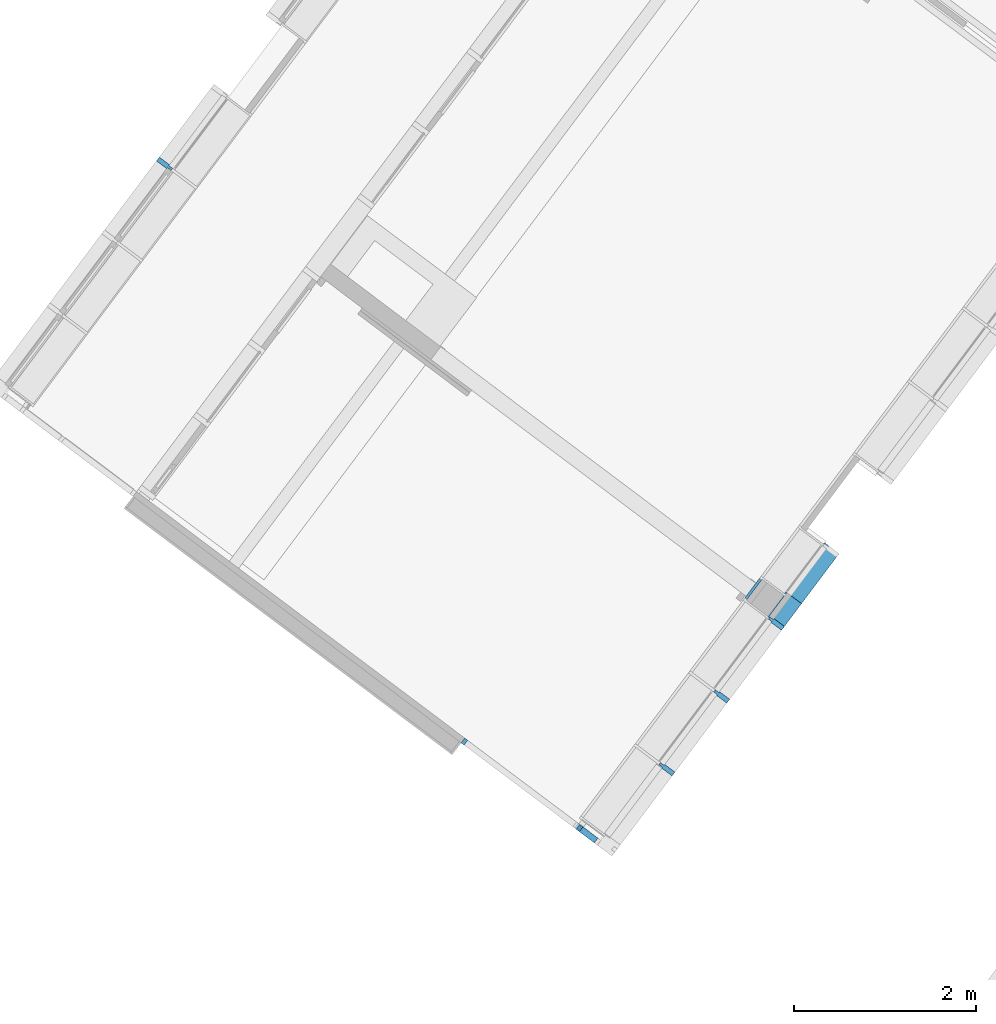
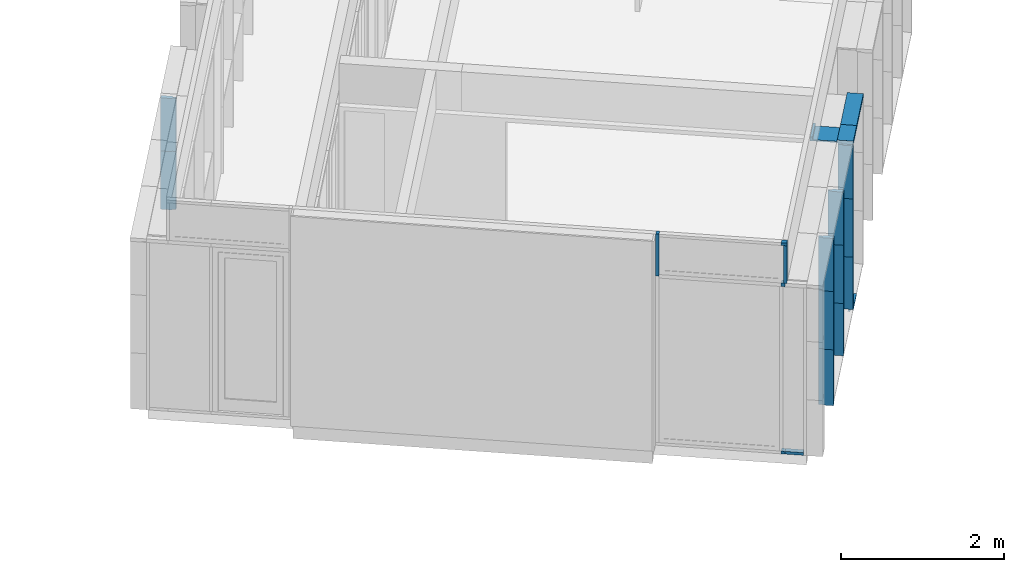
# One storey, part 77 of 243: 21 members, 4 elements without a shape of their own.
"""IFC2X3 building model written with IfcOpenShell, lengths in metres."""

from ifc_helpers import new_model, entity, si_unit, converted_unit, derived_unit, direction, frame, frame_2d, origin, origin_2d_with_axis, place, context, subcontext, project, spatial, polyline, circle_curve, parameter, trimmed, segment, composite_curve, rectangle, outline, extrude, source, transform, mapped, material, type_object, type_shapes, element, aggregate, save


model = new_model("IFC2X3")

# Units and contexts
model_context = context("Model", 3, precision=1e-05, world=origin(), true_north=direction((6.123031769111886e-17, 1.0)))
body_context = subcontext(model_context, "Body", "Model", "MODEL_VIEW")
ifc_project = project(units=[si_unit("LENGTHUNIT", "METRE"), si_unit("AREAUNIT", "SQUARE_METRE"), si_unit("VOLUMEUNIT", "CUBIC_METRE"), converted_unit("PLANEANGLEUNIT", "DEGREE", entity("IfcRatioMeasure", 0.017453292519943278), si_unit("PLANEANGLEUNIT", "RADIAN"), dimensions=[0, 0, 0, 0, 0, 0, 0]), si_unit("MASSUNIT", "GRAM", prefix="KILO"), derived_unit("MASSDENSITYUNIT", [(si_unit("MASSUNIT", "GRAM", prefix="KILO"), 1), (si_unit("LENGTHUNIT", "METRE"), -3)]), derived_unit("IONCONCENTRATIONUNIT", [(si_unit("MASSUNIT", "GRAM", prefix="KILO"), 1), (si_unit("LENGTHUNIT", "METRE"), -3)]), derived_unit("MOMENTOFINERTIAUNIT", [(si_unit("LENGTHUNIT", "METRE"), 4)]), si_unit("TIMEUNIT", "SECOND"), si_unit("FREQUENCYUNIT", "HERTZ"), si_unit("THERMODYNAMICTEMPERATUREUNIT", "DEGREE_CELSIUS"), derived_unit("THERMALTRANSMITTANCEUNIT", [(si_unit("MASSUNIT", "GRAM", prefix="KILO"), 1), (si_unit("THERMODYNAMICTEMPERATUREUNIT", "KELVIN"), -1), (si_unit("TIMEUNIT", "SECOND"), -3)]), derived_unit("THERMALCONDUCTANCEUNIT", [(si_unit("MASSUNIT", "GRAM", prefix="KILO"), 1), (si_unit("THERMODYNAMICTEMPERATUREUNIT", "KELVIN"), -1), (si_unit("TIMEUNIT", "SECOND"), -3), (si_unit("LENGTHUNIT", "METRE"), 1)]), derived_unit("VOLUMETRICFLOWRATEUNIT", [(si_unit("LENGTHUNIT", "METRE"), 3), (si_unit("TIMEUNIT", "SECOND"), -1)]), derived_unit("MASSFLOWRATEUNIT", [(si_unit("MASSUNIT", "GRAM", prefix="KILO"), 1), (si_unit("TIMEUNIT", "SECOND"), -1)]), derived_unit("ROTATIONALFREQUENCYUNIT", [(si_unit("TIMEUNIT", "SECOND"), -1)]), si_unit("ELECTRICCURRENTUNIT", "AMPERE"), si_unit("ELECTRICVOLTAGEUNIT", "VOLT"), si_unit("POWERUNIT", "WATT"), si_unit("FORCEUNIT", "NEWTON", prefix="KILO"), si_unit("ILLUMINANCEUNIT", "LUX"), si_unit("LUMINOUSFLUXUNIT", "LUMEN"), si_unit("LUMINOUSINTENSITYUNIT", "CANDELA"), derived_unit("USERDEFINED", [(si_unit("MASSUNIT", "GRAM", prefix="KILO"), -1), (si_unit("LENGTHUNIT", "METRE"), -2), (si_unit("TIMEUNIT", "SECOND"), 3), (si_unit("LUMINOUSFLUXUNIT", "LUMEN"), 1)]), derived_unit("USERDEFINED", [(si_unit("MASSUNIT", "GRAM", prefix="KILO"), 1), (si_unit("TIMEUNIT", "SECOND"), -3), (si_unit("LENGTHUNIT", "METRE"), 3), (si_unit("ELECTRICCURRENTUNIT", "AMPERE"), -2)]), derived_unit("SOUNDPOWERUNIT", [(si_unit("MASSUNIT", "GRAM", prefix="KILO"), 1), (si_unit("TIMEUNIT", "SECOND"), -3), (si_unit("LENGTHUNIT", "METRE"), 2)]), derived_unit("SOUNDPRESSUREUNIT", [(si_unit("MASSUNIT", "GRAM", prefix="KILO"), 1), (si_unit("LENGTHUNIT", "METRE"), -1), (si_unit("TIMEUNIT", "SECOND"), -2)]), derived_unit("LINEARVELOCITYUNIT", [(si_unit("LENGTHUNIT", "METRE"), 1), (si_unit("TIMEUNIT", "SECOND"), -1)]), si_unit("PRESSUREUNIT", "PASCAL"), derived_unit("USERDEFINED", [(si_unit("MASSUNIT", "GRAM", prefix="KILO"), 1), (si_unit("LENGTHUNIT", "METRE"), -2), (si_unit("TIMEUNIT", "SECOND"), -2)]), derived_unit("LINEARFORCEUNIT", [(si_unit("MASSUNIT", "GRAM", prefix="KILO"), 1), (si_unit("TIMEUNIT", "SECOND"), -2)]), derived_unit("PLANARFORCEUNIT", [(si_unit("MASSUNIT", "GRAM", prefix="KILO"), 1), (si_unit("LENGTHUNIT", "METRE"), -1), (si_unit("TIMEUNIT", "SECOND"), -2)]), derived_unit("SPECIFICHEATCAPACITYUNIT", [(si_unit("THERMODYNAMICTEMPERATUREUNIT", "KELVIN"), -1), (si_unit("LENGTHUNIT", "METRE"), 2), (si_unit("TIMEUNIT", "SECOND"), -2)]), derived_unit("HEATINGVALUEUNIT", [(si_unit("LENGTHUNIT", "METRE"), 2), (si_unit("TIMEUNIT", "SECOND"), -2)]), derived_unit("VAPORPERMEABILITYUNIT", [(si_unit("LENGTHUNIT", "METRE"), -1), (si_unit("TIMEUNIT", "SECOND"), 1)]), derived_unit("DYNAMICVISCOSITYUNIT", [(si_unit("MASSUNIT", "GRAM", prefix="KILO"), 1), (si_unit("TIMEUNIT", "SECOND"), -1), (si_unit("LENGTHUNIT", "METRE"), -1)]), derived_unit("THERMALEXPANSIONCOEFFICIENTUNIT", [(si_unit("THERMODYNAMICTEMPERATUREUNIT", "KELVIN"), -1)]), derived_unit("MODULUSOFELASTICITYUNIT", [(si_unit("MASSUNIT", "GRAM", prefix="KILO"), 1), (si_unit("LENGTHUNIT", "METRE"), -1), (si_unit("TIMEUNIT", "SECOND"), -2)]), derived_unit("ISOTHERMALMOISTURECAPACITYUNIT", [(si_unit("LENGTHUNIT", "METRE"), 3), (si_unit("MASSUNIT", "GRAM", prefix="KILO"), -1)]), derived_unit("MOISTUREDIFFUSIVITYUNIT", [(si_unit("TIMEUNIT", "SECOND"), -1), (si_unit("LENGTHUNIT", "METRE"), 2)])], contexts=[model_context])

# Site, building, storey
site_placement = place(None, frame((0.0, 0.0, 235.0), z_axis=(0.0, 0.0, 1.0), x_axis=(-0.7996477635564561, 0.6004693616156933, 0.0)))
site = spatial("IfcSite", under=ifc_project, at=site_placement, Name="Default", CompositionType="ELEMENT")
building_placement = place(site_placement, origin())
building = spatial("IfcBuilding", under=site, at=building_placement, CompositionType="ELEMENT")
storey_placement = place(building_placement, origin())
storey = spatial("IfcBuildingStorey", under=building, at=storey_placement, Name="P0- Escola", CompositionType="ELEMENT", Elevation=0.0)

# Curtain wall, members
curtain_wall_type_1 = type_object("IfcCurtainWallType", Name="Muro cortina:MC- EXT- MC2", PredefinedType="NOTDEFINED")
curtain_wall_1_placement = place(storey_placement, origin())
curtain_wall_1 = element("IfcCurtainWall", 1, at=curtain_wall_1_placement, inside=storey, type_object=curtain_wall_type_1, Name="Muro cortina:MC- EXT- MC2", ObjectType="Muro cortina:MC- EXT- MC2")
ifc_material_1 = material(Name="_Alumini- T1- Perfil")
member_type_1 = type_object("IfcMemberType", Name="Montante rectangular:MC- Alu- 140x52,5 cm- Fa patis- Centre", PredefinedType="MULLION", material=ifc_material_1)
shared_shape_1 = source(origin(), body_context, "Body", "SweptSolid", [
    extrude(outline(polyline([(-0.11699999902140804, -0.026250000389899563), (0.021999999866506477, -0.026250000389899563), (0.021999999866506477, -0.01500000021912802), (0.07299999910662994, -0.01500000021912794), (0.07299999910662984, 0.015000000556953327), (0.02200000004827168, 0.015000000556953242), (0.02200000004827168, 0.026250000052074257), (-0.11699999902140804, 0.026250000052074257), (-0.11699999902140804, -0.026250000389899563)])), frame((0.0, 0.022999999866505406, -0.8400000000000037), z_axis=(0.0, 0.0, 1.0), x_axis=(0.0, -1.0, 0.0)), (0.0, 0.0, 1.0), 0.8400000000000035),
])
type_shapes(member_type_1, [shared_shape_1])
member_1_placement = place(curtain_wall_1_placement, frame((41.04514768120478, -21.41519175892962, -0.02), z_axis=(0.0, 0.0, -1.0), x_axis=(0.0, -1.0, 0.0)))
member_1 = element("IfcMember", 2, at=member_1_placement, type_object=member_type_1, material=ifc_material_1, Name="Montante rectangular:MC- Alu- 140x52,5 cm- Fa patis- Centre", ObjectType="Montante rectangular:MC- Alu- 140x52,5 cm- Fa patis- Centre", context=body_context, shape_type="MappedRepresentation", body=[
    mapped(shared_shape_1, transform((0.0, 0.0, 0.0), scale=1.0)),
])
member_type_2 = type_object("IfcMemberType", Name="Montante rectangular:MC- Alu- 140x52,5 cm- Fa patis- Centre", PredefinedType="MULLION", material=ifc_material_1)
shared_shape_2 = source(origin(), body_context, "Body", "SweptSolid", [
    extrude(outline(polyline([(-0.11699999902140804, -0.026250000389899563), (0.021999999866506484, -0.026250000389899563), (0.021999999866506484, -0.01500000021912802), (0.07299999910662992, -0.01500000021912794), (0.07299999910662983, 0.015000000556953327), (0.022000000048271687, 0.015000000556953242), (0.022000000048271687, 0.026250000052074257), (-0.11699999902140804, 0.026250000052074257), (-0.11699999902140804, -0.026250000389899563)])), frame((0.0, 0.022999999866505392, -0.7850000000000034), z_axis=(0.0, 0.0, 1.0), x_axis=(0.0, -1.0, 0.0)), (0.0, 0.0, 1.0), 0.7850000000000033),
])
type_shapes(member_type_2, [shared_shape_2])
member_2_placement = place(curtain_wall_1_placement, frame((41.04514768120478, -22.41519175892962, 0.035000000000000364), z_axis=(0.0, 0.0, -1.0), x_axis=(0.0, -1.0, 0.0)))
member_2 = element("IfcMember", 3, at=member_2_placement, type_object=member_type_2, material=ifc_material_1, Name="Montante rectangular:MC- Alu- 140x52,5 cm- Fa patis- Centre", ObjectType="Montante rectangular:MC- Alu- 140x52,5 cm- Fa patis- Centre", context=body_context, shape_type="MappedRepresentation", body=[
    mapped(shared_shape_2, transform((0.0, 0.0, 0.0), scale=1.0)),
])
member_3_placement = place(curtain_wall_1_placement, frame((41.045147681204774, -23.415191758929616, 0.035000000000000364), z_axis=(0.0, 0.0, -1.0), x_axis=(0.0, -1.0, 0.0)))
member_3 = element("IfcMember", 4, at=member_3_placement, type_object=member_type_2, material=ifc_material_1, Name="Montante rectangular:MC- Alu- 140x52,5 cm- Fa patis- Centre", ObjectType="Montante rectangular:MC- Alu- 140x52,5 cm- Fa patis- Centre", context=body_context, shape_type="MappedRepresentation", body=[
    mapped(shared_shape_2, transform((0.0, 0.0, 0.0), scale=1.0)),
])
member_type_3 = type_object("IfcMemberType", Name="Montante rectangular:MC- Alu- 140x52,5 cm- Fa patis- Centre", PredefinedType="MULLION", material=ifc_material_1)
shared_shape_3 = source(origin(), body_context, "Body", "SweptSolid", [
    extrude(outline(polyline([(-0.11699999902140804, -0.026250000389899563), (0.021999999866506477, -0.026250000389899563), (0.021999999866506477, -0.01500000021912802), (0.07299999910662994, -0.01500000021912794), (0.07299999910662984, 0.015000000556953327), (0.02200000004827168, 0.015000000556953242), (0.02200000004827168, 0.026250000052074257), (-0.11699999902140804, 0.026250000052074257), (-0.11699999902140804, -0.026250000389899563)])), frame((0.0, 0.022999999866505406, -0.8750000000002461), z_axis=(0.0, 0.0, 1.0), x_axis=(0.0, -1.0, 0.0)), (0.0, 0.0, 1.0), 0.8750000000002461),
])
type_shapes(member_type_3, [shared_shape_3])
member_4_placement = place(curtain_wall_1_placement, frame((41.04514768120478, -21.41519175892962, 0.8200000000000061), z_axis=(0.0, 0.0, -1.0), x_axis=(0.0, -1.0, 0.0)))
member_4 = element("IfcMember", 5, at=member_4_placement, type_object=member_type_3, material=ifc_material_1, Name="Montante rectangular:MC- Alu- 140x52,5 cm- Fa patis- Centre", ObjectType="Montante rectangular:MC- Alu- 140x52,5 cm- Fa patis- Centre", context=body_context, shape_type="MappedRepresentation", body=[
    mapped(shared_shape_3, transform((0.0, 0.0, 0.0), scale=1.0)),
])
member_5_placement = place(curtain_wall_1_placement, frame((41.04514768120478, -22.41519175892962, 0.8200000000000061), z_axis=(0.0, 0.0, -1.0), x_axis=(0.0, -1.0, 0.0)))
member_5 = element("IfcMember", 6, at=member_5_placement, type_object=member_type_3, material=ifc_material_1, Name="Montante rectangular:MC- Alu- 140x52,5 cm- Fa patis- Centre", ObjectType="Montante rectangular:MC- Alu- 140x52,5 cm- Fa patis- Centre", context=body_context, shape_type="MappedRepresentation", body=[
    mapped(shared_shape_3, transform((0.0, 0.0, 0.0), scale=1.0)),
])
member_6_placement = place(curtain_wall_1_placement, frame((41.045147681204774, -23.415191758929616, 0.8200000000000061), z_axis=(0.0, 0.0, -1.0), x_axis=(0.0, -1.0, 0.0)))
member_6 = element("IfcMember", 7, at=member_6_placement, type_object=member_type_3, material=ifc_material_1, Name="Montante rectangular:MC- Alu- 140x52,5 cm- Fa patis- Centre", ObjectType="Montante rectangular:MC- Alu- 140x52,5 cm- Fa patis- Centre", context=body_context, shape_type="MappedRepresentation", body=[
    mapped(shared_shape_3, transform((0.0, 0.0, 0.0), scale=1.0)),
])

# Curtain wall, member
curtain_wall_type_2 = type_object("IfcCurtainWallType", Name="Muro cortina:MC- INT- k7- Aules infantil", PredefinedType="NOTDEFINED")
curtain_wall_2_placement = place(storey_placement, origin())
curtain_wall_2 = element("IfcCurtainWall", 8, at=curtain_wall_2_placement, inside=storey, type_object=curtain_wall_type_2, Name="Muro cortina:MC- INT- k7- Aules infantil", ObjectType="Muro cortina:MC- INT- k7- Aules infantil")
ifc_material_2 = material(Name="_Fusta massisa- T1")
member_type_4 = type_object("IfcMemberType", Name="Montante rectangular:MC- Fusta- 35x3 cm- Pati aules- Remat superior", PredefinedType="MULLION", material=ifc_material_2)
shared_shape_4 = source(origin(), body_context, "Body", "SweptSolid", [
    extrude(outline(polyline([(-0.21333333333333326, -0.02666666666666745), (0.1216666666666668, -0.02666666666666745), (0.12166666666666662, 0.03333333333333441), (0.09166666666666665, 0.03333333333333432), (0.09166666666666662, -0.006666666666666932), (-0.2133333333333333, -0.006666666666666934), (-0.21333333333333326, -0.02666666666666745)])), frame((-0.033333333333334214, 0.026666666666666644, -0.3000000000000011), z_axis=(0.0, 0.0, 1.0), x_axis=(0.0, -1.0, 0.0)), (0.0, 0.0, 1.0), 0.3000000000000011),
])
type_shapes(member_type_4, [shared_shape_4])
member_7_placement = place(curtain_wall_2_placement, frame((41.34514768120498, -23.715191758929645, 2.565), z_axis=(0.0, -1.0, 0.0), x_axis=(0.0, 0.0, 1.0)))
member_7 = element("IfcMember", 9, at=member_7_placement, type_object=member_type_4, material=ifc_material_2, Name="Montante rectangular:MC- Fusta- 35x3 cm- Pati aules- Remat superior", ObjectType="Montante rectangular:MC- Fusta- 35x3 cm- Pati aules- Remat superior", context=body_context, shape_type="MappedRepresentation", body=[
    mapped(shared_shape_4, transform((0.0, 0.0, 0.0), scale=1.0)),
])
aggregate(curtain_wall_2, [member_7])

# Member
member_type_5 = type_object("IfcMemberType", Name="Montante rectangular:MC- Alu- 140x52,5 cm- Fa patis- inferior", PredefinedType="MULLION", material=ifc_material_1)
shared_shape_5 = source(origin(), body_context, "Body", "SweptSolid", [
    extrude(outline(composite_curve([segment(polyline([(0.1278672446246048, -0.025867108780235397), (0.14416724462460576, -0.0258671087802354)]), True, "CONTINUOUS"), segment(polyline([(0.14416724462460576, -0.0258671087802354), (0.1441672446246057, 0.009132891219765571)]), True, "CONTINUOUS"), segment(polyline([(0.1441672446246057, 0.009132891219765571), (0.06786724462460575, 0.009132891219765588)]), True, "CONTINUOUS"), segment(polyline([(0.06786724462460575, 0.009132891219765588), (0.06786724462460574, -0.021159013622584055)]), True, "CONTINUOUS"), segment(polyline([(0.06786724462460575, -0.021159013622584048), (-0.030132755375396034, -0.012332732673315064)]), True, "CONTINUOUS"), segment(polyline([(-0.03013275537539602, -0.012332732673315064), (-0.030132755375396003, 0.027132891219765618)]), True, "CONTINUOUS"), segment(polyline([(-0.030132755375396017, 0.027132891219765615), (-0.0021327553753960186, 0.027132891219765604)]), True, "CONTINUOUS"), segment(polyline([(-0.0021327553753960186, 0.027132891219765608), (-0.0021327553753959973, 0.0291328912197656)]), True, "CONTINUOUS"), segment(polyline([(-0.0021327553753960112, 0.0291328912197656), (-0.032132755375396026, 0.02913289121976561)]), True, "CONTINUOUS"), segment(polyline([(-0.032132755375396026, 0.02913289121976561), (-0.03213275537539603, -0.012152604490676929)]), True, "CONTINUOUS"), segment(polyline([(-0.03213275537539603, -0.012152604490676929), (-0.0701327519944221, -0.008730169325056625)]), True, "CONTINUOUS"), segment(polyline([(-0.0701327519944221, -0.008730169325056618), (-0.0701327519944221, 0.0057663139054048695)]), True, "CONTINUOUS"), segment(trimmed(circle_curve(frame_2d((-0.0696327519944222, 0.005766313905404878), x_axis=(-1.0, 0.0)), 0.0004999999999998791), [parameter(269.999999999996)], [parameter(0.0)], True, "PARAMETER"), False, "CONTINUOUS"), segment(polyline([(-0.0696327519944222, 0.006266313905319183), (-0.06213275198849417, 0.00626631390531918)]), True, "CONTINUOUS"), segment(polyline([(-0.06213275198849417, 0.00626631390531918), (-0.06213275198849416, 0.008266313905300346)]), True, "CONTINUOUS"), segment(polyline([(-0.06213275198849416, 0.008266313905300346), (-0.07013275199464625, 0.008266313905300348)]), True, "CONTINUOUS"), segment(trimmed(circle_curve(frame_2d((-0.07013275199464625, 0.0062663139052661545), x_axis=(0.0, 1.0)), 0.0020000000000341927), [parameter(0.0)], [parameter(90.00000002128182)], True, "PARAMETER"), True, "CONTINUOUS"), segment(polyline([(-0.07213275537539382, 0.006266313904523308), (-0.07213275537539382, -0.008730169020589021)]), True, "CONTINUOUS"), segment(trimmed(circle_curve(frame_2d((-0.07013275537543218, -0.008730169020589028), x_axis=(-1.0, 0.0)), 0.001999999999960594), [parameter(0.0)], [parameter(84.85359280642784)], True, "PARAMETER"), True, "CONTINUOUS"), segment(polyline([(-0.07031215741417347, -0.010722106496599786), (0.06786724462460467, -0.02316710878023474)]), True, "CONTINUOUS"), segment(polyline([(0.06786724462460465, -0.023167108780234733), (0.12786724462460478, -0.02316710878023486)]), True, "CONTINUOUS"), segment(polyline([(0.12786724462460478, -0.02316710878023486), (0.1278672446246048, -0.025867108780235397)]), True, "CONTINUOUS")], self_intersect=False)), frame((-0.02913289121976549, 0.06786724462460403, -0.3391263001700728), z_axis=(0.0, 0.0, 1.0), x_axis=(0.0, -1.0, 0.0)), (0.0, 0.0, 1.0), 0.3391263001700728),
])
type_shapes(member_type_5, [shared_shape_5])
member_8_placement = place(curtain_wall_1_placement, frame((41.045147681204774, -23.415191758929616, -0.02), z_axis=(0.0, 1.0, 0.0), x_axis=(0.0, 0.0, -1.0)))
member_8 = element("IfcMember", 10, at=member_8_placement, type_object=member_type_5, material=ifc_material_1, Name="Montante rectangular:MC- Alu- 140x52,5 cm- Fa patis- inferior", ObjectType="Montante rectangular:MC- Alu- 140x52,5 cm- Fa patis- inferior", context=body_context, shape_type="MappedRepresentation", body=[
    mapped(shared_shape_5, transform((0.0, 0.0, 0.0), scale=1.0)),
])

member_type_6 = type_object("IfcMemberType", Name="Montante rectangular:MC- Alu- 140x52,5 cm- Fa patis- Superior", PredefinedType="MULLION", material=ifc_material_1)
shared_shape_6 = source(origin(), body_context, "Body", "SweptSolid", [
    extrude(outline(polyline([(-0.11366666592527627, -0.021249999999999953), (0.02633333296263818, -0.021249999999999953), (0.02633333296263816, -0.010000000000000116), (0.08733333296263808, -0.010000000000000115), (0.08733333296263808, 0.03125000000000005), (-0.11366666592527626, 0.031250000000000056), (-0.11366666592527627, -0.021249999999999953)])), frame((-0.031250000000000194, 0.027333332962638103, -0.6871237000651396), z_axis=(0.0, 0.0, 1.0), x_axis=(0.0, -1.0, 0.0)), (0.0, 0.0, 1.0), 0.6871237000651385),
])
type_shapes(member_type_6, [shared_shape_6])
member_9_placement = place(curtain_wall_1_placement, frame((41.045147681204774, -24.441441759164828, 2.545), z_axis=(0.0, -1.0, 0.0), x_axis=(0.0, 0.0, 1.0)))
member_9 = element("IfcMember", 11, at=member_9_placement, type_object=member_type_6, material=ifc_material_1, Name="Montante rectangular:MC- Alu- 140x52,5 cm- Fa patis- Superior", ObjectType="Montante rectangular:MC- Alu- 140x52,5 cm- Fa patis- Superior", context=body_context, shape_type="MappedRepresentation", body=[
    mapped(shared_shape_6, transform((0.0, 0.0, 0.0), scale=1.0)),
])

member_type_7 = type_object("IfcMemberType", Name="Montante rectangular:MC- Alu- 140x52,5 cm- Fa patis- Superior", PredefinedType="MULLION", material=ifc_material_1)
shared_shape_7 = source(origin(), body_context, "Body", "SweptSolid", [
    extrude(outline(polyline([(-0.11366666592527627, -0.021249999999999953), (0.02633333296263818, -0.021249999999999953), (0.02633333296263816, -0.010000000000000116), (0.08733333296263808, -0.010000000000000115), (0.08733333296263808, 0.03125000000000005), (-0.11366666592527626, 0.031250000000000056), (-0.11366666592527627, -0.021249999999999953)])), frame((-0.031250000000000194, 0.027333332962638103, -0.3391263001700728), z_axis=(0.0, 0.0, 1.0), x_axis=(0.0, -1.0, 0.0)), (0.0, 0.0, 1.0), 0.3391263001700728),
])
type_shapes(member_type_7, [shared_shape_7])
member_10_placement = place(curtain_wall_1_placement, frame((41.045147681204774, -23.75431805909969, 2.545), z_axis=(0.0, -1.0, 0.0), x_axis=(0.0, 0.0, 1.0)))
member_10 = element("IfcMember", 12, at=member_10_placement, type_object=member_type_7, material=ifc_material_1, Name="Montante rectangular:MC- Alu- 140x52,5 cm- Fa patis- Superior", ObjectType="Montante rectangular:MC- Alu- 140x52,5 cm- Fa patis- Superior", context=body_context, shape_type="MappedRepresentation", body=[
    mapped(shared_shape_7, transform((0.0, 0.0, 0.0), scale=1.0)),
])

member_type_8 = type_object("IfcMemberType", Name="Montante rectangular:MC- Alu- 140x52,5 cm- Fa patis- Centre", PredefinedType="MULLION", material=ifc_material_1)
shared_shape_8 = source(origin(), body_context, "Body", "SweptSolid", [
    extrude(outline(polyline([(-0.11699999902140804, -0.026250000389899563), (0.021999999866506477, -0.026250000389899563), (0.021999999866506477, -0.01500000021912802), (0.07299999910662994, -0.01500000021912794), (0.07299999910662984, 0.015000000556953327), (0.02200000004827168, 0.015000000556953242), (0.02200000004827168, 0.026250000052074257), (-0.11699999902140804, 0.026250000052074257), (-0.11699999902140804, -0.026250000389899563)])), frame((0.0, 0.022999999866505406, -0.79749999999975), z_axis=(0.0, 0.0, 1.0), x_axis=(0.0, -1.0, 0.0)), (0.0, 0.0, 1.0), 0.79749999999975),
])
type_shapes(member_type_8, [shared_shape_8])
member_11_placement = place(curtain_wall_1_placement, frame((41.04514768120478, -21.41519175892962, 1.6950000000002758), z_axis=(0.0, 0.0, -1.0), x_axis=(0.0, -1.0, 0.0)))
member_11 = element("IfcMember", 13, at=member_11_placement, type_object=member_type_8, material=ifc_material_1, Name="Montante rectangular:MC- Alu- 140x52,5 cm- Fa patis- Centre", ObjectType="Montante rectangular:MC- Alu- 140x52,5 cm- Fa patis- Centre", context=body_context, shape_type="MappedRepresentation", body=[
    mapped(shared_shape_8, transform((0.0, 0.0, 0.0), scale=1.0)),
])

member_12_placement = place(curtain_wall_1_placement, frame((41.04514768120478, -22.41519175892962, 1.6950000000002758), z_axis=(0.0, 0.0, -1.0), x_axis=(0.0, -1.0, 0.0)))
member_12 = element("IfcMember", 14, at=member_12_placement, type_object=member_type_8, material=ifc_material_1, Name="Montante rectangular:MC- Alu- 140x52,5 cm- Fa patis- Centre", ObjectType="Montante rectangular:MC- Alu- 140x52,5 cm- Fa patis- Centre", context=body_context, shape_type="MappedRepresentation", body=[
    mapped(shared_shape_8, transform((0.0, 0.0, 0.0), scale=1.0)),
])

member_13_placement = place(curtain_wall_1_placement, frame((41.045147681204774, -23.415191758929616, 1.6950000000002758), z_axis=(0.0, 0.0, -1.0), x_axis=(0.0, -1.0, 0.0)))
member_13 = element("IfcMember", 15, at=member_13_placement, type_object=member_type_8, material=ifc_material_1, Name="Montante rectangular:MC- Alu- 140x52,5 cm- Fa patis- Centre", ObjectType="Montante rectangular:MC- Alu- 140x52,5 cm- Fa patis- Centre", context=body_context, shape_type="MappedRepresentation", body=[
    mapped(shared_shape_8, transform((0.0, 0.0, 0.0), scale=1.0)),
])

aggregate(curtain_wall_1, [member_1, member_2, member_8, member_3, member_9, member_10, member_4, member_5, member_6, member_11, member_12, member_13])

# Curtain wall, members
curtain_wall_type_3 = type_object("IfcCurtainWallType", Name="Muro cortina:MC- EXT- MC5", PredefinedType="NOTDEFINED")
curtain_wall_3_placement = place(storey_placement, origin())
curtain_wall_3 = element("IfcCurtainWall", 16, at=curtain_wall_3_placement, inside=storey, type_object=curtain_wall_type_3, Name="Muro cortina:MC- EXT- MC5", ObjectType="Muro cortina:MC- EXT- MC5")
member_type_9 = type_object("IfcMemberType", Name="Montante rectangular:MC- Alu- 140x52,5 cm- Fa patis- Centre", PredefinedType="MULLION", material=ifc_material_1)
shared_shape_9 = source(origin(), body_context, "Body", "SweptSolid", [
    extrude(outline(polyline([(-0.021999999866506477, -0.026250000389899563), (0.11699999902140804, -0.026250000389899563), (0.11699999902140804, 0.026250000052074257), (-0.02200000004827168, 0.026250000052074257), (-0.02200000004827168, 0.015000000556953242), (-0.07299999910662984, 0.015000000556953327), (-0.07299999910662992, -0.01500000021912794), (-0.021999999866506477, -0.01500000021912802), (-0.021999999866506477, -0.026250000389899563)])), frame((0.0, -0.022999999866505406, -0.8750000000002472), z_axis=(0.0, 0.0, 1.0), x_axis=(0.0, -1.0, 0.0)), (0.0, 0.0, 1.0), 0.8750000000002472),
])
type_shapes(member_type_9, [shared_shape_9])
member_14_placement = place(curtain_wall_3_placement, frame((49.345147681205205, -23.415191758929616, 0.8200000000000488), z_axis=(0.0, 0.0, -1.0), x_axis=(0.0, -1.0, 0.0)))
member_14 = element("IfcMember", 17, at=member_14_placement, type_object=member_type_9, material=ifc_material_1, Name="Montante rectangular:MC- Alu- 140x52,5 cm- Fa patis- Centre", ObjectType="Montante rectangular:MC- Alu- 140x52,5 cm- Fa patis- Centre", context=body_context, shape_type="MappedRepresentation", body=[
    mapped(shared_shape_9, transform((0.0, 0.0, 0.0), scale=1.0)),
])
member_type_10 = type_object("IfcMemberType", Name="Montante rectangular:MC- Alu- 140x52,5 cm- Fa patis- Centre", PredefinedType="MULLION", material=ifc_material_1)
shared_shape_10 = source(origin(), body_context, "Body", "SweptSolid", [
    extrude(outline(polyline([(-0.021999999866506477, -0.026250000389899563), (0.11699999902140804, -0.026250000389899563), (0.11699999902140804, 0.026250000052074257), (-0.02200000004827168, 0.026250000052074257), (-0.02200000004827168, 0.015000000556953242), (-0.07299999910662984, 0.015000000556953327), (-0.07299999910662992, -0.01500000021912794), (-0.021999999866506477, -0.01500000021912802), (-0.021999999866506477, -0.026250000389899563)])), frame((0.0, -0.022999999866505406, -0.7974999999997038), z_axis=(0.0, 0.0, 1.0), x_axis=(0.0, -1.0, 0.0)), (0.0, 0.0, 1.0), 0.7974999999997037),
])
type_shapes(member_type_10, [shared_shape_10])
member_15_placement = place(curtain_wall_3_placement, frame((49.345147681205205, -23.415191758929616, 1.695000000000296), z_axis=(0.0, 0.0, -1.0), x_axis=(0.0, -1.0, 0.0)))
member_15 = element("IfcMember", 18, at=member_15_placement, type_object=member_type_10, material=ifc_material_1, Name="Montante rectangular:MC- Alu- 140x52,5 cm- Fa patis- Centre", ObjectType="Montante rectangular:MC- Alu- 140x52,5 cm- Fa patis- Centre", context=body_context, shape_type="MappedRepresentation", body=[
    mapped(shared_shape_10, transform((0.0, 0.0, 0.0), scale=1.0)),
])
aggregate(curtain_wall_3, [member_14, member_15])

curtain_wall_type_4 = type_object("IfcCurtainWallType", Name="Muro cortina:MC- EXT- AL1- Fa porxo", PredefinedType="NOTDEFINED")
curtain_wall_4_placement = place(storey_placement, origin())
curtain_wall_4 = element("IfcCurtainWall", 19, at=curtain_wall_4_placement, inside=storey, type_object=curtain_wall_type_4, Name="Muro cortina:MC- EXT- AL1- Fa porxo", ObjectType="Muro cortina:MC- EXT- AL1- Fa porxo")
member_type_11 = type_object("IfcMemberType", Name="Montante rectangular:MC- Alu- 65x41 cm- Fa Porxo- Centre", PredefinedType="MULLION", material=ifc_material_1)
shared_shape_11 = source(origin(), body_context, "Body", "SweptSolid", [
    extrude(rectangle(XDim=0.06500000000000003, YDim=0.04100000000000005, at=frame_2d((0.0, 5.204170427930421e-18), x_axis=(1.0, 0.0))), frame((-0.020499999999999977, 0.032499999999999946, -0.22566666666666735), z_axis=(0.0, 0.0, 1.0), x_axis=(0.0, -1.0, 0.0)), (0.0, 0.0, 1.0), 0.22566666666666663),
])
type_shapes(member_type_11, [shared_shape_11])
member_16_placement = place(curtain_wall_4_placement, frame((41.146147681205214, -20.28894175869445, -0.020000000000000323), z_axis=(-1.0, 0.0, 0.0), x_axis=(0.0, 0.0, -1.0)))
member_16 = element("IfcMember", 20, at=member_16_placement, type_object=member_type_11, material=ifc_material_1, Name="Montante rectangular:MC- Alu- 65x41 cm- Fa Porxo- Centre", ObjectType="Montante rectangular:MC- Alu- 65x41 cm- Fa Porxo- Centre", context=body_context, shape_type="MappedRepresentation", body=[
    mapped(shared_shape_11, transform((0.0, 0.0, 0.0), scale=1.0)),
])
member_type_12 = type_object("IfcMemberType", Name="Montante rectangular:MC- Alu- 65x41 cm- Fa Porxo- Centre", PredefinedType="MULLION", material=ifc_material_1)
shared_shape_12 = source(origin(), body_context, "Body", "SweptSolid", [
    extrude(rectangle(XDim=0.06500000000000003, YDim=0.041000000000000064, at=origin_2d_with_axis()), frame((-0.02050000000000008, 0.032499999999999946, -0.6312500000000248), z_axis=(0.0, 0.0, 1.0), x_axis=(0.0, -1.0, 0.0)), (0.0, 0.0, 1.0), 0.6312500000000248),
])
type_shapes(member_type_12, [shared_shape_12])
member_17_placement = place(curtain_wall_4_placement, frame((42.9751436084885, -20.288941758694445, 2.51875), z_axis=(0.0, 0.0, -1.0), x_axis=(1.0, 0.0, 0.0)))
member_17 = element("IfcMember", 21, at=member_17_placement, type_object=member_type_12, material=ifc_material_1, Name="Montante rectangular:MC- Alu- 65x41 cm- Fa Porxo- Centre", ObjectType="Montante rectangular:MC- Alu- 65x41 cm- Fa Porxo- Centre", context=body_context, shape_type="MappedRepresentation", body=[
    mapped(shared_shape_12, transform((0.0, 0.0, 0.0), scale=1.0)),
])
member_type_13 = type_object("IfcMemberType", Name="Montante rectangular:MC- Alu- 65x41 cm- Fa Porxo- Centre", PredefinedType="MULLION", material=ifc_material_1)
shared_shape_13 = source(origin(), body_context, "Body", "SweptSolid", [
    extrude(rectangle(XDim=0.06500000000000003, YDim=0.041000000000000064, at=origin_2d_with_axis()), frame((-0.02050000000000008, 0.03249999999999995, -0.06833333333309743), z_axis=(0.0, 0.0, 1.0), x_axis=(0.0, -1.0, 0.0)), (0.0, 0.0, 1.0), 0.06833333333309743),
])
type_shapes(member_type_13, [shared_shape_13])
member_18_placement = place(curtain_wall_4_placement, frame((41.41964768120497, -20.28894175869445, 3.150000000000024), z_axis=(1.0, 0.0, 0.0), x_axis=(0.0, 0.0, 1.0)))
member_18 = element("IfcMember", 22, at=member_18_placement, type_object=member_type_13, material=ifc_material_1, Name="Montante rectangular:MC- Alu- 65x41 cm- Fa Porxo- Centre", ObjectType="Montante rectangular:MC- Alu- 65x41 cm- Fa Porxo- Centre", context=body_context, shape_type="MappedRepresentation", body=[
    mapped(shared_shape_13, transform((0.0, 0.0, 0.0), scale=1.0)),
])
member_type_14 = type_object("IfcMemberType", Name="Montante rectangular:MC- Alu- 65x41 cm- Fa Porxo- Centre", PredefinedType="MULLION", material=ifc_material_1)
shared_shape_14 = source(origin(), body_context, "Body", "SweptSolid", [
    extrude(rectangle(XDim=0.06500000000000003, YDim=0.041000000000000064, at=frame_2d((0.0, 3.469446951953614e-18), x_axis=(1.0, 0.0))), frame((-0.02049999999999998, 0.032499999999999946, -0.04783333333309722), z_axis=(0.0, 0.0, 1.0), x_axis=(0.0, -1.0, 0.0)), (0.0, 0.0, 1.0), 0.04783333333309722),
])
type_shapes(member_type_14, [shared_shape_14])
member_19_placement = place(curtain_wall_4_placement, frame((41.371814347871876, -20.28894175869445, -0.02000000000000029), z_axis=(-1.0, 0.0, 0.0), x_axis=(0.0, 0.0, -1.0)))
member_19 = element("IfcMember", 23, at=member_19_placement, type_object=member_type_14, material=ifc_material_1, Name="Montante rectangular:MC- Alu- 65x41 cm- Fa Porxo- Centre", ObjectType="Montante rectangular:MC- Alu- 65x41 cm- Fa Porxo- Centre", context=body_context, shape_type="MappedRepresentation", body=[
    mapped(shared_shape_14, transform((0.0, 0.0, 0.0), scale=1.0)),
])
member_type_15 = type_object("IfcMemberType", Name="Montante rectangular:MC- Alu- 65x52,5 cm- Fa Porxo- Centre", PredefinedType="MULLION", material=ifc_material_1)
shared_shape_15 = source(origin(), body_context, "Body", "SweptSolid", [
    extrude(rectangle(XDim=0.06500000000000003, YDim=0.053000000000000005, at=frame_2d((3.469446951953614e-18, 5.204170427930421e-18), x_axis=(1.0, 0.0))), frame((0.0, 0.03249999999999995, -0.04783333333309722), z_axis=(0.0, 0.0, 1.0), x_axis=(0.0, -1.0, 0.0)), (0.0, 0.0, 1.0), 0.04783333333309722),
])
type_shapes(member_type_15, [shared_shape_15])
member_20_placement = place(curtain_wall_4_placement, frame((41.41964768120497, -20.28894175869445, 2.51875), z_axis=(1.0, 0.0, 0.0), x_axis=(0.0, 0.0, 1.0)))
member_20 = element("IfcMember", 24, at=member_20_placement, type_object=member_type_15, material=ifc_material_1, Name="Montante rectangular:MC- Alu- 65x52,5 cm- Fa Porxo- Centre", ObjectType="Montante rectangular:MC- Alu- 65x52,5 cm- Fa Porxo- Centre", context=body_context, shape_type="MappedRepresentation", body=[
    mapped(shared_shape_15, transform((0.0, 0.0, 0.0), scale=1.0)),
])
member_type_16 = type_object("IfcMemberType", Name="Montante rectangular:MC- Alu- 65x41 cm- Fa Porxo- Centre", PredefinedType="MULLION", material=ifc_material_1)
shared_shape_16 = source(origin(), body_context, "Body", "SweptSolid", [
    extrude(rectangle(XDim=0.06500000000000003, YDim=0.04100000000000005, at=frame_2d((3.469446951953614e-18, 6.938893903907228e-18), x_axis=(1.0, 0.0))), frame((0.0, 0.03249999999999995, -0.5637500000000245), z_axis=(0.0, 0.0, 1.0), x_axis=(0.0, -1.0, 0.0)), (0.0, 0.0, 1.0), 0.5637500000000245),
])
type_shapes(member_type_16, [shared_shape_16])
member_21_placement = place(curtain_wall_4_placement, frame((41.371814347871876, -20.28894175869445, 2.54525), z_axis=(0.0, 0.0, -1.0), x_axis=(1.0, 0.0, 0.0)))
member_21 = element("IfcMember", 25, at=member_21_placement, type_object=member_type_16, material=ifc_material_1, Name="Montante rectangular:MC- Alu- 65x41 cm- Fa Porxo- Centre", ObjectType="Montante rectangular:MC- Alu- 65x41 cm- Fa Porxo- Centre", context=body_context, shape_type="MappedRepresentation", body=[
    mapped(shared_shape_16, transform((0.0, 0.0, 0.0), scale=1.0)),
])
aggregate(curtain_wall_4, [member_16, member_17, member_18, member_19, member_20, member_21])

save(model, "model.ifc")
